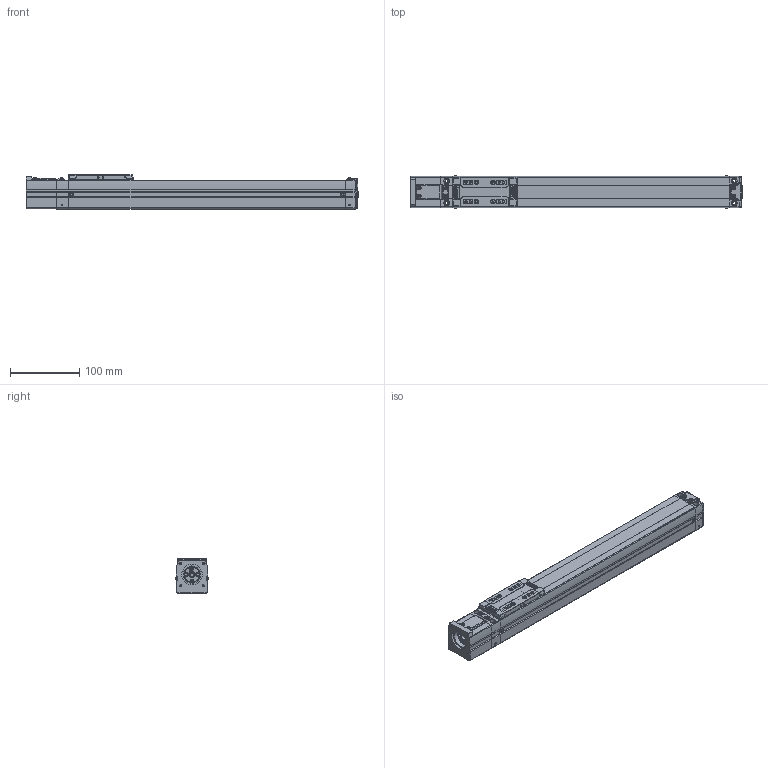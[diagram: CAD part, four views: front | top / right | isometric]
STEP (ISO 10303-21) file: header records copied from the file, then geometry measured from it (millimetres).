
FILE_DESCRIPTION(('STEP AP214'),'1');
FILE_NAME('Z:/Web/3D/SAN45/STP/SAN45ㅁㅁ-300S.stp','2012-06-15T05:37:36',(' '),(' '),'Spatial InterOp 3D',' ',' ');
FILE_SCHEMA(('automotive_design'));
Length unit declared in the file: metre
Products named in the file (63): SAN45__-300; BODY-SAN45; REAR-SAN45; RRCV-SAN45; BHCS M3 x 6L; BHCS M3 X 6L; FRONT-SAN45; SHAFT; RN8 x 0.75; SSFX-SAN45; SLIDE-SAN45; SLCV-IM45; FHCS M3 x 6L; ____91; S; MTHZ-SAN45; SDWB 22C-6-8; SDWB22C(2); SDWB22C(2)_1; SDWB22C(3); SDWB22C(3)_1; SDWB22C(3)_2; SDWB22C(3)_3; SDWB22C(3)_4; SDWB22C(3)_5; SDWB22C(3)_6; SDWB22C(3)_7; SDWB22C(3)_8; SDWB22C(3)_9; SDWB22C(3)_10; SDWB22C(3)_11; SDWB22C(3)_12; SDWB22C(3)_13; SDWB22C(3)_14; SDWB22C(3)_15; SDWB22C(4); SDWB22C(5); SDWB22C(5)_1; SDWB22C(5)_2; SDWB22C(5)_3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
Assembly tree (62 placements, depth 4):
  ____91
    SAN45__-300
      BODY-SAN45
      REAR-SAN45
        REAR-SAN45
        RRCV-SAN45
        BHCS M3 x 6L
        BHCS M3 X 6L
        BHCS M3 x 6L
        BHCS M3 x 6L
        BHCS M3 x 6L
        BHCS M3 x 6L
      FRONT-SAN45
        FRONT-SAN45
        SHAFT
        RN8 x 0.75
        SSFX-SAN45
        BHCS M3 x 6L
        BHCS M3 x 6L
        BHCS M3 x 6L
        BHCS M3 x 6L
      SLIDE-SAN45
        SLIDE-SAN45
        SLCV-IM45
        FHCS M3 x 6L
        FHCS M3 x 6L
        FHCS M3 x 6L
        FHCS M3 x 6L
    S
      MTHZ-SAN45
      SDWB 22C-6-8
        SDWB22C(2)
        SDWB22C(2)_1
        SDWB22C(3)
        SDWB22C(3)_1
        SDWB22C(3)_2
        SDWB22C(3)_3
        SDWB22C(3)_4
        SDWB22C(3)_5
        SDWB22C(3)_6
        SDWB22C(3)_7
        SDWB22C(3)_8
        SDWB22C(3)_9
        SDWB22C(3)_10
        SDWB22C(3)_11
        SDWB22C(3)_12
        SDWB22C(3)_13
        SDWB22C(3)_14
        SDWB22C(3)_15
        SDWB22C(4)
        SDWB22C(5)
        SDWB22C(5)_1
        SDWB22C(5)_2
        SDWB22C(5)_3
        SDWB22C(5)_4
        SDWB22C(5)_5
        SDWB22C(5)_6
        SDWB22C(5)_7
        SDWA22C(1)
        SDWA22C(1)
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Bounding box: 480.15 x 47.13 x 50 mm (x, y, z)
Volume: 872704 mm3; surface area: 152039.4 mm2
Topology: 56 solids, 56 shells, 1813 faces, 4650 edges, 3022 vertices
Faces by surface type: plane 1031, cylinder 556, cone 146, bspline 42, sphere 24, torus 11, extrusion 3
Full cylindrical faces by diameter (mm): 0.376 x2, 0.47 x1, 1.137 x2, 1.421 x1, 1.665 x4, 2.081 x2, 2.2 x4, 2.5 x39, 2.6 x14, 2.7 x2, 3 x10, 3.193 x4, 3.3 x8, 3.4 x4, 3.5 x8, 3.991 x2, 4.2 x9, 4.5 x28, 4.9 x2, 5 x13, 6 x9, 7 x1, 8 x9, 9 x1, 10.7 x2, 13 x1, 15 x1, 19 x1, 22.2 x3, 25 x1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
Entity records: 72752 total; most frequent: CARTESIAN_POINT 13895, DIRECTION 9110, ORIENTED_EDGE 8376, EDGE_CURVE 4188, AXIS2_PLACEMENT_3D 3239, VERTEX_POINT 2902, VECTOR 2632, LINE 2629
